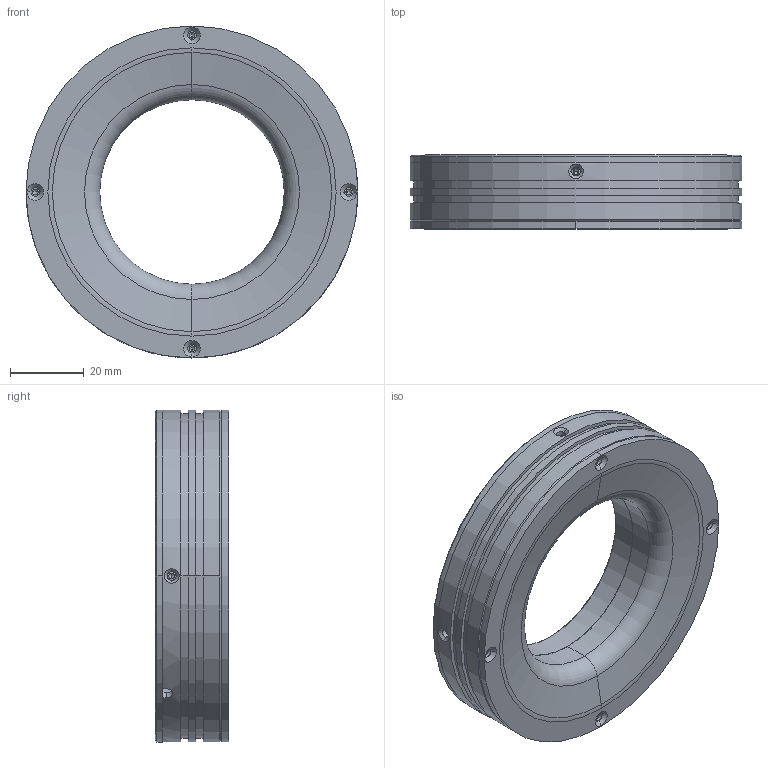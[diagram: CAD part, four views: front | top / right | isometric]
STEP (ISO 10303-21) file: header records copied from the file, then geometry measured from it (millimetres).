
FILE_DESCRIPTION (( 'STEP AP203' ), '1' );
FILE_NAME ('P-RL-90-80-00.STEP', '2025-09-17T01:47:07', ( '' ), ( '' ), 'SwSTEP 2.0', 'SolidWorks 2022', '' );
FILE_SCHEMA (( 'CONFIG_CONTROL_DESIGN' ));
Length unit declared in the file: millimetre
Products named in the file (4): P-RL-90-80-002; P-RL-90-80-001; DFP-RL-90-80; P-RL-90-80-00
Assembly tree (3 placements, depth 2):
  P-RL-90-80-00
    DFP-RL-90-80
    P-RL-90-80-001
    P-RL-90-80-002
Bounding box: 90 x 20 x 90 mm (x, y, z)
Volume: 45336.1 mm3; surface area: 36785.4 mm2
Topology: 3 solids, 3 shells, 165 faces, 400 edges, 232 vertices
Faces by surface type: cylinder 77, cone 62, plane 18, torus 8
Entity records: 5596 total; most frequent: CARTESIAN_POINT 1367, DIRECTION 852, ORIENTED_EDGE 752, EDGE_CURVE 376, AXIS2_PLACEMENT_3D 351, VERTEX_POINT 232, EDGE_LOOP 202, CIRCLE 180
